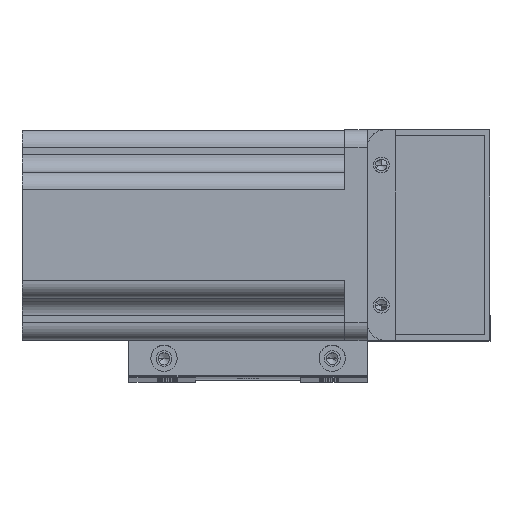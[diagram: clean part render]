
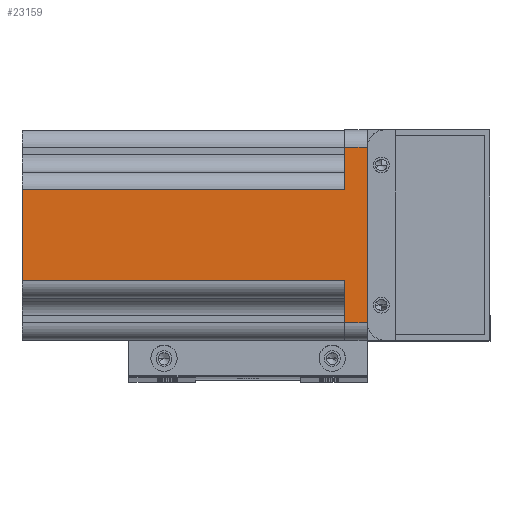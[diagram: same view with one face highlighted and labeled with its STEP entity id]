
A CAD part, top view. The second image highlights one B-rep face of the part: STEP entity #23159.
In plain terms, the highlighted planar face has unit normal (0, 0, 1) as drawn and (0, 1, 0) by its records, which use the part's own axes.
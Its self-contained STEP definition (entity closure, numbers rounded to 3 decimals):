
#217 = LINE ( 'NONE', #13948, #10983 ) ;
#218 = DIRECTION ( 'NONE',  ( -1., 0., 0. ) ) ;
#812 = EDGE_CURVE ( 'NONE', #20944, #10089, #23271, .T. ) ;
#1124 = VECTOR ( 'NONE', #9256, 1000. ) ;
#1302 = LINE ( 'NONE', #18753, #4402 ) ;
#1424 = VERTEX_POINT ( 'NONE', #27269 ) ;
#2115 = VECTOR ( 'NONE', #17646, 1000. ) ;
#2345 = CARTESIAN_POINT ( 'NONE',  ( -13., 30., -92. ) ) ;
#2761 = CARTESIAN_POINT ( 'NONE',  ( 25., 30., 0. ) ) ;
#2768 = PLANE ( 'NONE',  #12214 ) ;
#3838 = CARTESIAN_POINT ( 'NONE',  ( 25., 30., 6.5 ) ) ;
#3879 = VERTEX_POINT ( 'NONE', #17490 ) ;
#4133 = ORIENTED_EDGE ( 'NONE', *, *, #11892, .F. ) ;
#4219 = VERTEX_POINT ( 'NONE', #2345 ) ;
#4355 = ORIENTED_EDGE ( 'NONE', *, *, #812, .T. ) ;
#4402 = VECTOR ( 'NONE', #12301, 1000. ) ;
#4643 = VERTEX_POINT ( 'NONE', #6112 ) ;
#5062 = EDGE_LOOP ( 'NONE', ( #4355, #20611, #7879, #7272, #21140, #7944, #4133, #28055 ) ) ;
#5690 = CARTESIAN_POINT ( 'NONE',  ( 13., 30., 0. ) ) ;
#5699 = EDGE_CURVE ( 'NONE', #4219, #8348, #17281, .T. ) ;
#5771 = DIRECTION ( 'NONE',  ( 0., -1., 0. ) ) ;
#5828 = FACE_OUTER_BOUND ( 'NONE', #5062, .T. ) ;
#6112 = CARTESIAN_POINT ( 'NONE',  ( -13., 30., 0. ) ) ;
#6931 = CARTESIAN_POINT ( 'NONE',  ( -25., 30., 6.5 ) ) ;
#7272 = ORIENTED_EDGE ( 'NONE', *, *, #12976, .T. ) ;
#7879 = ORIENTED_EDGE ( 'NONE', *, *, #5699, .F. ) ;
#7944 = ORIENTED_EDGE ( 'NONE', *, *, #16059, .F. ) ;
#8288 = VECTOR ( 'NONE', #12763, 1000. ) ;
#8348 = VERTEX_POINT ( 'NONE', #13466 ) ;
#8945 = CARTESIAN_POINT ( 'NONE',  ( -13., 30., 6.5 ) ) ;
#9256 = DIRECTION ( 'NONE',  ( -1., 0., 0. ) ) ;
#9414 = LINE ( 'NONE', #8945, #2115 ) ;
#10089 = VERTEX_POINT ( 'NONE', #5690 ) ;
#10152 = DIRECTION ( 'NONE',  ( 0., 0., -1. ) ) ;
#10244 = VECTOR ( 'NONE', #218, 1000. ) ;
#10983 = VECTOR ( 'NONE', #11428, 1000. ) ;
#11234 = VECTOR ( 'NONE', #13624, 1000. ) ;
#11428 = DIRECTION ( 'NONE',  ( 0., 0., -1. ) ) ;
#11554 = LINE ( 'NONE', #6931, #11234 ) ;
#11892 = EDGE_CURVE ( 'NONE', #13715, #3879, #11554, .T. ) ;
#12214 = AXIS2_PLACEMENT_3D ( 'NONE', #19029, #5771, #10152 ) ;
#12301 = DIRECTION ( 'NONE',  ( 0., 0., -1. ) ) ;
#12763 = DIRECTION ( 'NONE',  ( 1., 0., 0. ) ) ;
#12976 = EDGE_CURVE ( 'NONE', #4219, #4643, #9414, .T. ) ;
#13466 = CARTESIAN_POINT ( 'NONE',  ( 13., 30., -92. ) ) ;
#13624 = DIRECTION ( 'NONE',  ( -1., 0., 0. ) ) ;
#13715 = VERTEX_POINT ( 'NONE', #3838 ) ;
#13948 = CARTESIAN_POINT ( 'NONE',  ( 25., 30., 6.5 ) ) ;
#14310 = CARTESIAN_POINT ( 'NONE',  ( -25., 30., 6.5 ) ) ;
#15582 = EDGE_CURVE ( 'NONE', #10089, #8348, #1302, .T. ) ;
#15742 = LINE ( 'NONE', #22186, #10244 ) ;
#16059 = EDGE_CURVE ( 'NONE', #3879, #1424, #27568, .T. ) ;
#16412 = DIRECTION ( 'NONE',  ( 0., 0., -1. ) ) ;
#17281 = LINE ( 'NONE', #21824, #8288 ) ;
#17490 = CARTESIAN_POINT ( 'NONE',  ( -25., 30., 6.5 ) ) ;
#17646 = DIRECTION ( 'NONE',  ( 0., 0., 1. ) ) ;
#18753 = CARTESIAN_POINT ( 'NONE',  ( 13., 30., 6.5 ) ) ;
#19029 = CARTESIAN_POINT ( 'NONE',  ( -25., 30., 6.5 ) ) ;
#19680 = EDGE_CURVE ( 'NONE', #4643, #1424, #15742, .T. ) ;
#20362 = CARTESIAN_POINT ( 'NONE',  ( -25., 30., 0. ) ) ;
#20611 = ORIENTED_EDGE ( 'NONE', *, *, #15582, .T. ) ;
#20944 = VERTEX_POINT ( 'NONE', #2761 ) ;
#21140 = ORIENTED_EDGE ( 'NONE', *, *, #19680, .T. ) ;
#21824 = CARTESIAN_POINT ( 'NONE',  ( -18., 30., -92. ) ) ;
#22186 = CARTESIAN_POINT ( 'NONE',  ( -25., 30., 0. ) ) ;
#23159 = ADVANCED_FACE ( 'NONE', ( #5828 ), #2768, .F. ) ;
#23271 = LINE ( 'NONE', #20362, #1124 ) ;
#27046 = EDGE_CURVE ( 'NONE', #13715, #20944, #217, .T. ) ;
#27269 = CARTESIAN_POINT ( 'NONE',  ( -25., 30., 0. ) ) ;
#27568 = LINE ( 'NONE', #14310, #27912 ) ;
#27912 = VECTOR ( 'NONE', #16412, 1000. ) ;
#28055 = ORIENTED_EDGE ( 'NONE', *, *, #27046, .T. ) ;
